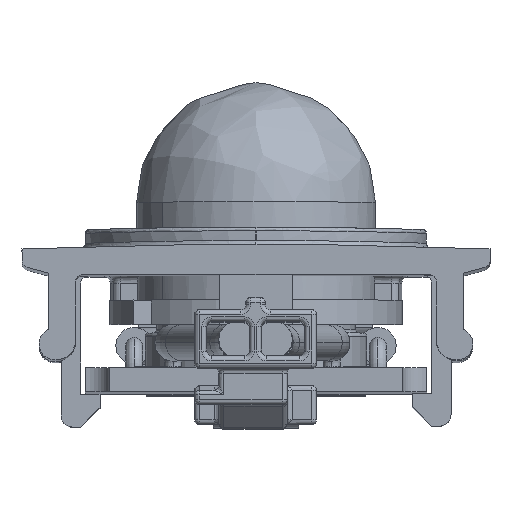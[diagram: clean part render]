
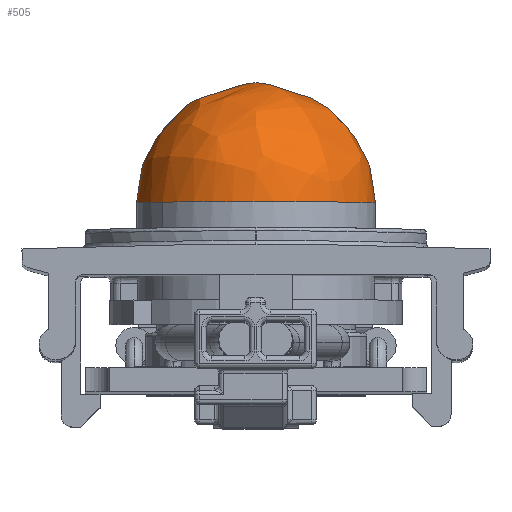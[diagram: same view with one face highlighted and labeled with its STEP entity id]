
A CAD part, top view. The second image highlights one B-rep face of the part: STEP entity #505.
In plain terms, the highlighted free-form (B-spline) face has degree [3, 3] with [4, 4] control points.
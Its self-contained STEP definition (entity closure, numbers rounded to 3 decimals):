
#505 = ADVANCED_FACE ( 'NONE', ( #12259 ), #27008, .T. ) ;
#775 = DIRECTION ( 'NONE',  ( 0., 1., 0. ) ) ;
#2585 = CARTESIAN_POINT ( 'NONE',  ( 0., 5.02, 0. ) ) ;
#3467 = EDGE_CURVE ( 'NONE', #15266, #26934, #6121, .T. ) ;
#3843 = CARTESIAN_POINT ( 'NONE',  ( -4.9, 5.02, 0. ) ) ;
#3961 = CARTESIAN_POINT ( 'NONE',  ( -4.9, 5.02, -9.8 ) ) ;
#4353 = CARTESIAN_POINT ( 'NONE',  ( 4.9, 5.02, 0. ) ) ;
#4791 = CARTESIAN_POINT ( 'NONE',  ( 0., 5.02, 0. ) ) ;
#5479 = AXIS2_PLACEMENT_3D ( 'NONE', #23326, #14629, #16584 ) ;
#6027 = CARTESIAN_POINT ( 'NONE',  ( -4.9, 5.02, 0. ) ) ;
#6121 = CIRCLE ( 'NONE', #8343, 4.9 ) ;
#6412 = AXIS2_PLACEMENT_3D ( 'NONE', #4791, #17132, #9109 ) ;
#6427 = CARTESIAN_POINT ( 'NONE',  ( 4.9, 5.02, 0. ) ) ;
#7116 = ORIENTED_EDGE ( 'NONE', *, *, #13078, .T. ) ;
#7244 = VERTEX_POINT ( 'NONE', #25069 ) ;
#8343 = AXIS2_PLACEMENT_3D ( 'NONE', #21302, #8905, #17464 ) ;
#8905 = DIRECTION ( 'NONE',  ( 0., 1., 0. ) ) ;
#9087 = CIRCLE ( 'NONE', #6412, 4.9 ) ;
#9109 = DIRECTION ( 'NONE',  ( -1., 0., 0. ) ) ;
#9484 = CIRCLE ( 'NONE', #5479, 4.9 ) ;
#11126 = CARTESIAN_POINT ( 'NONE',  ( 4.9, 24.62, -9.8 ) ) ;
#12259 = FACE_OUTER_BOUND ( 'NONE', #19172, .T. ) ;
#12389 = CARTESIAN_POINT ( 'NONE',  ( -4.9, 24.62, -9.8 ) ) ;
#12664 = CARTESIAN_POINT ( 'NONE',  ( 4.9, 24.62, 9.8 ) ) ;
#13078 = EDGE_CURVE ( 'NONE', #14730, #15266, #9484, .T. ) ;
#13190 = CARTESIAN_POINT ( 'NONE',  ( 4.9, 5.02, -9.8 ) ) ;
#13672 = CARTESIAN_POINT ( 'NONE',  ( 0., 5.02, 4.9 ) ) ;
#14446 = EDGE_CURVE ( 'NONE', #26934, #7244, #9087, .T. ) ;
#14469 = CARTESIAN_POINT ( 'NONE',  ( -4.9, 5.02, 9.8 ) ) ;
#14572 = ORIENTED_EDGE ( 'NONE', *, *, #3467, .T. ) ;
#14629 = DIRECTION ( 'NONE',  ( 0., 1., 0. ) ) ;
#14730 = VERTEX_POINT ( 'NONE', #3843 ) ;
#14868 = CARTESIAN_POINT ( 'NONE',  ( 4.9, 5.02, 0. ) ) ;
#15266 = VERTEX_POINT ( 'NONE', #13672 ) ;
#16000 = CARTESIAN_POINT ( 'NONE',  ( 4.9, 5.02, 0. ) ) ;
#16549 = CARTESIAN_POINT ( 'NONE',  ( -4.9, 5.02, 0. ) ) ;
#16584 = DIRECTION ( 'NONE',  ( -1., 0., 0. ) ) ;
#17132 = DIRECTION ( 'NONE',  ( 0., 1., 0. ) ) ;
#17210 = ORIENTED_EDGE ( 'NONE', *, *, #25987, .T. ) ;
#17464 = DIRECTION ( 'NONE',  ( -1., 0., 0. ) ) ;
#17762 = DIRECTION ( 'NONE',  ( -1., 0., 0. ) ) ;
#18610 = CARTESIAN_POINT ( 'NONE',  ( -4.9, 5.02, 0. ) ) ;
#19172 = EDGE_LOOP ( 'NONE', ( #24634, #17210, #7116, #14572 ) ) ;
#21302 = CARTESIAN_POINT ( 'NONE',  ( 0., 5.02, 0. ) ) ;
#21606 = CARTESIAN_POINT ( 'NONE',  ( 4.9, 5.02, 9.8 ) ) ;
#22882 = CARTESIAN_POINT ( 'NONE',  ( -4.9, 24.62, 9.8 ) ) ;
#23326 = CARTESIAN_POINT ( 'NONE',  ( 0., 5.02, 0. ) ) ;
#24634 = ORIENTED_EDGE ( 'NONE', *, *, #14446, .T. ) ;
#24915 = CIRCLE ( 'NONE', #26231, 4.9 ) ;
#24974 = CARTESIAN_POINT ( 'NONE',  ( -4.9, 5.02, 0. ) ) ;
#25069 = CARTESIAN_POINT ( 'NONE',  ( 0., 5.02, -4.9 ) ) ;
#25773 = CARTESIAN_POINT ( 'NONE',  ( 4.9, 5.02, 0. ) ) ;
#25987 = EDGE_CURVE ( 'NONE', #7244, #14730, #24915, .T. ) ;
#26231 = AXIS2_PLACEMENT_3D ( 'NONE', #2585, #775, #17762 ) ;
#26934 = VERTEX_POINT ( 'NONE', #16000 ) ;
#27008 =( BOUNDED_SURFACE ( )  B_SPLINE_SURFACE ( 3, 3, ( 
 ( #18610, #16549, #24974, #6027 ),
 ( #14469, #22882, #12389, #3961 ),
 ( #21606, #12664, #11126, #13190 ),
 ( #25773, #4353, #6427, #14868 ) ),
 .UNSPECIFIED., .F., .F., .T. ) 
 B_SPLINE_SURFACE_WITH_KNOTS ( ( 4, 4 ),
 ( 4, 4 ),
 ( 0., 1. ),
 ( 0., 1. ),
 .UNSPECIFIED. ) 
 GEOMETRIC_REPRESENTATION_ITEM ( )  RATIONAL_B_SPLINE_SURFACE ( (
 ( 1., 0.333, 0.333, 1.),
 ( 0.333, 0.111, 0.111, 0.333),
 ( 0.333, 0.111, 0.111, 0.333),
 ( 1., 0.333, 0.333, 1.) ) ) 
 REPRESENTATION_ITEM ( '' )  SURFACE ( )  );
